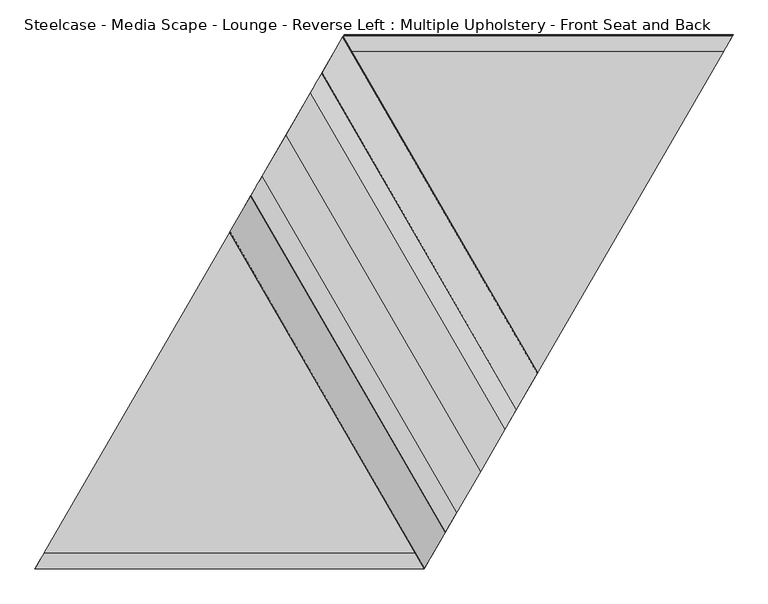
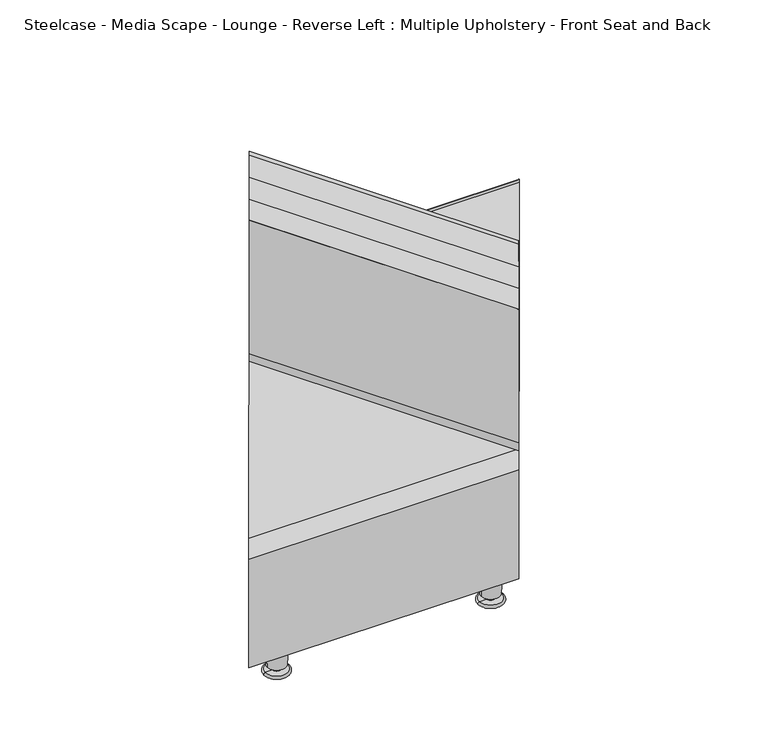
"""IFC4 building model written with IfcOpenShell, lengths in millimetres: furniture geometry, Steelcase - Media Scape - Lounge - Reverse Left : Multiple Upholstery - Front Seat and Back."""

from ifc_helpers import new_model, si_unit, point, frame, origin, place, context, project, spatial, polyline, circle_curve, ellipse_curve, trimmed, source, transform, mapped, element, save
from ifc_brep_helpers import plane_surface, cylinder_surface, revolved_surface, advanced_brep


def steelcase_media_scape_lounge_reverse_left_multiple_c18cf6bd(model_context):
    return source(origin(), model_context, "Body", "AdvancedBrep", [
        advanced_brep(
        [(1089.5021408, 833.8007481, 375.0457281), (1075.0168101, 808.759271, 404.6983065), (621.7328337, 25.1457946, 404.6983065), (607.2475031, 0.1043175, 375.0457281), (467.8296499, 808.759271, 404.6983065), (482.3149805, 833.8007481, 375.0457281), (0.0603428, 0.1043175, 375.0457281), (14.5456735, 25.1457946, 404.6983065)],
        [
            (0, 1, ellipse_curve(frame((1075.0168101, 808.759271, 379.2983065), z_axis=(0.8656115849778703, -0.5007160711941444, 0.0), x_axis=(0.500716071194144, 0.8656115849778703, 0.0)), 29.343415, 25.4)),
            (1, 2),
            (2, 3, ellipse_curve(frame((621.7328337, 25.1457946, 379.2983065), z_axis=(0.8656115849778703, -0.5007160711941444, 0.0), x_axis=(0.500716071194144, 0.8656115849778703, 0.0)), 29.343415, 25.4)),
            (3, 0),
            (4, 5, ellipse_curve(frame((467.8296499, 808.759271, 379.2983065), z_axis=(-0.8656115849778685, 0.5007160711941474, 0.0), x_axis=(0.5007160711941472, 0.8656115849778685, 0.0)), 29.343415, 25.4)),
            (5, 6),
            (6, 7, ellipse_curve(frame((14.5456735, 25.1457946, 379.2983065), z_axis=(-0.8656115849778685, 0.5007160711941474, 0.0), x_axis=(0.5007160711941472, 0.8656115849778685, 0.0)), 29.343415, 25.4)),
            (7, 4),
            (0, 5),
            (4, 1),
            (7, 2),
            (6, 3),
        ],
        [
            plane_surface(frame((1244.6, 1101.9257624, 750.6521515), z_axis=(0.8656115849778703, -0.5007160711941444, 0.0), x_axis=(0.0, 0.0, -1.0))),
            plane_surface(frame((-113.1046529, -195.5293698, 750.6521515), z_axis=(-0.8656115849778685, 0.5007160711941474, 0.0), x_axis=(0.0, 0.0, -1.0))),
            cylinder_surface(frame((-26.5525875, 808.759271, 379.2983065), z_axis=(1.0, 0.0, 0.0), x_axis=(0.0, 1.0, 0.0)), 25.4),
            plane_surface(frame((1094.6230669, 808.759271, 404.6983065), z_axis=(0.0, 0.0, 1.0), x_axis=(-1.0, 0.0, 0.0))),
            cylinder_surface(frame((-26.5525875, 25.1457946, 379.2983065), z_axis=(1.0, 0.0, 0.0), x_axis=(0.0, -1.0, 0.0)), 25.4),
            plane_surface(frame((1094.6230669, 0.1043175, 375.0457281), z_axis=(0.0, 0.0, -1.0), x_axis=(-1.0, 0.0, 0.0))),
        ],
        [
            (0, [[1, 2, 3, 4]]),
            (1, [[5, 6, 7, 8]]),
            (2, [[9, -5, 10, -1]]),
            (3, [[-10, -8, 11, -2]]),
            (4, [[-11, -7, 12, -3]]),
            (5, [[-9, -4, -12, -6]]),
        ],
    ),
        advanced_brep(
        [(784.0823692, 305.807125, 438.7707826), (480.7785795, 831.1446989, 438.7707826), (448.0784619, 774.614457, 710.4083904), (751.3822516, 249.2768832, 710.4083904), (447.4787106, 773.5776385, 710.4083904), (750.7825003, 248.2400646, 710.4083904), (480.2037704, 830.1509992, 438.5635894), (783.5075601, 304.8134253, 438.5635894), (465.4772182, 804.6925109, 407.2255), (768.7810079, 279.3549371, 407.2255), (392.5844661, 678.6793583, 407.2255), (695.8882558, 153.3417845, 407.2255), (319.5651722, 552.447447, 407.2255), (622.8689619, 27.1098731, 407.2255), (304.83862, 526.9889588, 438.5635894), (608.1424097, 1.6513849, 438.5635894), (337.5636798, 583.5623194, 710.4083904), (640.8674695, 58.2247456, 710.4083904), (336.9639285, 582.5255009, 710.4083904), (640.2677181, 57.187927, 710.4083904), (304.2638109, 525.9952591, 438.7707826), (607.5676006, 0.6576852, 438.7707826), (319.5651722, 552.447447, 406.2095), (622.8689619, 27.1098731, 406.2095), (392.5844661, 678.6793583, 406.2095), (695.8882558, 153.3417845, 406.2095), (465.4772182, 804.6925109, 406.2095), (768.7810079, 279.3549371, 406.2095)],
        [
            (0, 1),
            (1, 2),
            (2, 3),
            (3, 0),
            (2, 4),
            (4, 5),
            (5, 3),
            (4, 6),
            (6, 7),
            (7, 5),
            (6, 8, ellipse_curve(frame((465.4772182, 804.6925109, 433.2553188), z_axis=(-0.8656115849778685, 0.5007160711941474, 0.0), x_axis=(0.5007160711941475, 0.8656115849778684, 0.0)), 30.042311, 26.0298188)),
            (8, 9),
            (9, 7, ellipse_curve(frame((768.7810079, 279.3549371, 433.2553188), z_axis=(0.8656115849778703, -0.5007160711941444, 0.0), x_axis=(0.5007160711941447, 0.86561158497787, 0.0)), 30.042311, 26.0298188)),
            (8, 10),
            (10, 11),
            (11, 9),
            (10, 12),
            (12, 13),
            (13, 11),
            (12, 14, ellipse_curve(frame((319.5651722, 552.447447, 433.2553188), z_axis=(-0.8656115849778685, 0.5007160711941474, 0.0), x_axis=(0.5007160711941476, 0.8656115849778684, 0.0)), 30.042311, 26.0298188)),
            (14, 15),
            (15, 13, ellipse_curve(frame((622.8689619, 27.1098731, 433.2553188), z_axis=(0.8656115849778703, -0.5007160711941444, 0.0), x_axis=(0.5007160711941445, 0.86561158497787, 0.0)), 30.042311, 26.0298188)),
            (14, 16),
            (16, 17),
            (17, 15),
            (16, 18),
            (18, 19),
            (19, 17),
            (18, 20),
            (20, 21),
            (21, 19),
            (20, 22, ellipse_curve(frame((319.5651722, 552.447447, 433.2553188), z_axis=(0.8656115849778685, -0.5007160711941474, 0.0), x_axis=(-0.5007160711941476, -0.8656115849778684, 0.0)), 31.2149272, 27.0458188)),
            (22, 23),
            (23, 21, ellipse_curve(frame((622.8689619, 27.1098731, 433.2553188), z_axis=(-0.8656115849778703, 0.5007160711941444, 0.0), x_axis=(-0.5007160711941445, -0.86561158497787, 0.0)), 31.2149272, 27.0458188)),
            (22, 24),
            (24, 25),
            (25, 23),
            (24, 26),
            (26, 27),
            (27, 25),
            (0, 27, ellipse_curve(frame((768.7810079, 279.3549371, 433.2553188), z_axis=(-0.8656115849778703, 0.5007160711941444, 0.0), x_axis=(-0.5007160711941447, -0.86561158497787, 0.0)), 31.2149272, 27.0458188)),
            (26, 1, ellipse_curve(frame((465.4772182, 804.6925109, 433.2553188), z_axis=(0.8656115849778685, -0.5007160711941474, 0.0), x_axis=(-0.5007160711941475, -0.8656115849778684, 0.0)), 31.2149272, 27.0458188)),
        ],
        [
            plane_surface(frame((872.2769364, 153.0496536, 438.7707826), z_axis=(0.8478262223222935, 0.489492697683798, 0.20393036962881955), x_axis=(-0.4999999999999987, 0.8660254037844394, 0.0))),
            plane_surface(frame((823.2735355, 124.7575269, 710.4083904), z_axis=(0.0, 0.0, 1.0), x_axis=(-0.4999999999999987, 0.8660254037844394, 0.0))),
            plane_surface(frame((822.3747664, 124.2386223, 710.4083904), z_axis=(-0.8478262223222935, -0.4894926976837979, -0.20393036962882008), x_axis=(-0.4999999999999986, 0.8660254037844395, 0.0))),
            revolved_surface(polyline([(480.51988613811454, 830.6974833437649, 433.2553188), (798.8233085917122, 279.37978343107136, 433.2553188)]), (457.0526696, 819.2842571, 433.2553188), (-0.49999999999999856, 0.8660254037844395, 0.0)),
            plane_surface(frame((849.346782, 139.8109228, 407.2255), z_axis=(0.0, 0.0, 1.0), x_axis=(-0.4999999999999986, 0.8660254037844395, 0.0))),
            plane_surface(frame((740.1119223, 76.7441471, 407.2255), z_axis=(0.0, 0.0, 1.0), x_axis=(-0.49999999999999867, 0.8660254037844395, 0.0))),
            revolved_surface(polyline([(289.5228714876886, 552.4226006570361, 433.2553188), (607.8262939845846, 1.1049006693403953, 433.2553188)]), (238.3933185, 693.0412218, 433.2553188), (-0.49999999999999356, 0.8660254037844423, 0.0)),
            plane_surface(frame((608.618668, 0.8264814, 438.5635894), z_axis=(0.8478262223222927, 0.4894926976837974, -0.20393036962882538), x_axis=(-0.49999999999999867, 0.8660254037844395, 0.0))),
            plane_surface(frame((657.6594466, 29.1401881, 710.4083904), z_axis=(0.0, 0.0, 1.0), x_axis=(-0.4999999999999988, 0.8660254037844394, 0.0))),
            plane_surface(frame((656.7606775, 28.6212835, 710.4083904), z_axis=(-0.8478262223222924, -0.4894926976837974, 0.2039303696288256), x_axis=(-0.4999999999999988, 0.8660254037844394, 0.0))),
            cylinder_surface(frame((238.3933185, 693.0412218, 433.2553188), z_axis=(0.49999999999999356, -0.8660254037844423, 0.0), x_axis=(-0.8660254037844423, -0.49999999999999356, 0.0)), 27.0458188),
            plane_surface(frame((630.6874309, 13.5678876, 406.2095), z_axis=(0.0, 0.0, -1.0), x_axis=(-0.49999999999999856, 0.8660254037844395, 0.0))),
            plane_surface(frame((740.1119223, 76.7441471, 406.2095), z_axis=(0.0, 0.0, -1.0), x_axis=(-0.49999999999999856, 0.8660254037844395, 0.0))),
            cylinder_surface(frame((457.0526696, 819.2842571, 433.2553188), z_axis=(0.49999999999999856, -0.8660254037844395, 0.0), x_axis=(0.8660254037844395, 0.49999999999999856, 0.0)), 27.0458188),
            plane_surface(frame((1244.6, 1101.9257624, 750.6521515), z_axis=(0.8656115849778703, -0.5007160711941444, 0.0), x_axis=(0.0, 0.0, -1.0))),
            plane_surface(frame((-113.1046529, -195.5293698, 750.6521515), z_axis=(-0.8656115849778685, 0.5007160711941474, 0.0), x_axis=(0.0, 0.0, -1.0))),
        ],
        [
            (0, [[1, 2, 3, 4]]),
            (1, [[-3, 5, 6, 7]]),
            (2, [[-6, 8, 9, 10]]),
            (3, [[-9, 11, 12, 13]]),
            (4, [[-12, 14, 15, 16]]),
            (5, [[-15, 17, 18, 19]]),
            (6, [[-18, 20, 21, 22]]),
            (7, [[-21, 23, 24, 25]]),
            (8, [[-24, 26, 27, 28]]),
            (9, [[-27, 29, 30, 31]]),
            (10, [[-30, 32, 33, 34]]),
            (11, [[-33, 35, 36, 37]]),
            (12, [[-36, 38, 39, 40]]),
            (13, [[-1, 41, -39, 42]]),
            (14, [[-4, -7, -10, -13, -16, -19, -22, -25, -28, -31, -34, -37, -40, -41]]),
            (15, [[-2, -42, -38, -35, -32, -29, -26, -23, -20, -17, -14, -11, -8, -5]]),
        ],
    ),
        advanced_brep(
        [(733.2985607, 218.0147503, 735.33), (429.994771, 743.3523242, 735.33), (392.1305336, 677.8946237, 735.33), (695.4343233, 152.5570499, 735.33), (355.0476193, 613.7876338, 735.33), (658.351409, 88.4500599, 735.33), (337.0848346, 582.734517, 710.0547892), (640.3886243, 57.3969432, 710.0547892), (304.4075131, 526.243684, 438.6065476), (607.7113028, 0.9061101, 438.6065476), (319.5651722, 552.447447, 406.3510633), (622.8689619, 27.1098731, 406.3510633), (392.5844661, 678.6793583, 406.3510633), (695.8882558, 153.3417845, 406.3510633), (465.4772182, 804.6925109, 406.3510633), (768.7810079, 279.3549371, 406.3510633), (480.6348772, 830.896274, 438.6065476), (783.9386669, 305.5587001, 438.6065476), (447.9575558, 774.4054409, 710.0547892), (751.2613455, 249.067867, 710.0547892)],
        [
            (0, 1),
            (1, 2),
            (2, 3),
            (3, 0),
            (2, 4),
            (4, 5),
            (5, 3),
            (4, 6, ellipse_curve(frame((355.0476193, 613.7876338, 703.58), z_axis=(0.8656115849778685, -0.5007160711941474, 0.0), x_axis=(-0.5007160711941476, -0.8656115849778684, 0.0)), 36.6442572, 31.75)),
            (6, 7),
            (7, 5, ellipse_curve(frame((658.351409, 88.4500599, 703.58), z_axis=(-0.8656115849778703, 0.5007160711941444, 0.0), x_axis=(-0.5007160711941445, -0.86561158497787, 0.0)), 36.6442572, 31.75)),
            (6, 8),
            (8, 9),
            (9, 7),
            (8, 10, ellipse_curve(frame((319.5651722, 552.447447, 433.1428821), z_axis=(0.8656115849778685, -0.5007160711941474, 0.0), x_axis=(-0.5007160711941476, -0.8656115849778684, 0.0)), 30.9217732, 26.7918188)),
            (10, 11),
            (11, 9, ellipse_curve(frame((622.8689619, 27.1098731, 433.1428821), z_axis=(-0.8656115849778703, 0.5007160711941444, 0.0), x_axis=(-0.5007160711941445, -0.86561158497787, 0.0)), 30.9217732, 26.7918188)),
            (10, 12),
            (12, 13),
            (13, 11),
            (12, 14),
            (14, 15),
            (15, 13),
            (14, 16, ellipse_curve(frame((465.4772182, 804.6925109, 433.1428821), z_axis=(0.8656115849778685, -0.5007160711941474, 0.0), x_axis=(-0.5007160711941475, -0.8656115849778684, 0.0)), 30.9217732, 26.7918188)),
            (16, 17),
            (17, 15, ellipse_curve(frame((768.7810079, 279.3549371, 433.1428821), z_axis=(-0.8656115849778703, 0.5007160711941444, 0.0), x_axis=(-0.5007160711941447, -0.86561158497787, 0.0)), 30.9217732, 26.7918188)),
            (16, 18),
            (18, 19),
            (19, 17),
            (0, 19, ellipse_curve(frame((733.2985607, 218.0147503, 703.58), z_axis=(-0.8656115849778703, 0.5007160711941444, 0.0), x_axis=(-0.5007160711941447, -0.86561158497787, 0.0)), 36.6442572, 31.75)),
            (18, 1, ellipse_curve(frame((429.994771, 743.3523242, 703.58), z_axis=(0.8656115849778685, -0.5007160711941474, 0.0), x_axis=(-0.5007160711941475, -0.8656115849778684, 0.0)), 36.6442572, 31.75)),
        ],
        [
            plane_surface(frame((796.5544513, 108.452334, 735.33), z_axis=(0.0, 0.0, 1.0), x_axis=(-0.49999999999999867, 0.8660254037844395, 0.0))),
            plane_surface(frame((739.8122575, 75.6922131, 735.33), z_axis=(0.0, 0.0, 1.0), x_axis=(-0.49999999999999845, 0.8660254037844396, 0.0))),
            cylinder_surface(frame((291.2090631, 724.3592567, 703.58), z_axis=(0.49999999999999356, -0.8660254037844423, 0.0), x_axis=(-0.8660254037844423, -0.49999999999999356, 0.0)), 31.75),
            plane_surface(frame((657.3224483, 28.0666996, 710.0547892), z_axis=(-0.8478262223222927, -0.4894926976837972, 0.2039303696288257), x_axis=(-0.49999999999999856, 0.8660254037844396, 0.0))),
            cylinder_surface(frame((238.0361477, 693.6598597, 433.1428821), z_axis=(0.49999999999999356, -0.8660254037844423, 0.0), x_axis=(-0.8660254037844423, -0.49999999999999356, 0.0)), 26.7918188),
            plane_surface(frame((631.0680155, 12.9086957, 406.3510633), z_axis=(0.0, 0.0, -1.0000000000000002), x_axis=(-0.4999999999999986, 0.8660254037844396, 0.0))),
            plane_surface(frame((740.4925069, 76.0849553, 406.3510633), z_axis=(0.0, 0.0, -1.0), x_axis=(-0.49999999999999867, 0.8660254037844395, 0.0))),
            cylinder_surface(frame((456.6954989, 819.902895, 433.1428821), z_axis=(0.49999999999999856, -0.8660254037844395, 0.0), x_axis=(0.8660254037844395, 0.49999999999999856, 0.0)), 26.7918188),
            plane_surface(frame((872.4421732, 152.2661306, 438.6065476), z_axis=(0.8478262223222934, 0.489492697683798, 0.20393036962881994), x_axis=(-0.4999999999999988, 0.8660254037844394, 0.0))),
            cylinder_surface(frame((403.5225835, 789.203498, 703.58), z_axis=(0.49999999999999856, -0.8660254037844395, 0.0), x_axis=(0.8660254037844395, 0.49999999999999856, 0.0)), 31.75),
            plane_surface(frame((1244.6, 1101.9257624, 750.6521515), z_axis=(0.8656115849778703, -0.5007160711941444, 0.0), x_axis=(0.0, 0.0, -1.0))),
            plane_surface(frame((-113.1046529, -195.5293698, 750.6521515), z_axis=(-0.8656115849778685, 0.5007160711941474, 0.0), x_axis=(0.0, 0.0, -1.0))),
        ],
        [
            (0, [[1, 2, 3, 4]]),
            (1, [[-3, 5, 6, 7]]),
            (2, [[-6, 8, 9, 10]]),
            (3, [[-9, 11, 12, 13]]),
            (4, [[-12, 14, 15, 16]]),
            (5, [[-15, 17, 18, 19]]),
            (6, [[-18, 20, 21, 22]]),
            (7, [[-21, 23, 24, 25]]),
            (8, [[-24, 26, 27, 28]]),
            (9, [[-1, 29, -27, 30]]),
            (10, [[-4, -7, -10, -13, -16, -19, -22, -25, -28, -29]]),
            (11, [[-2, -30, -26, -23, -20, -17, -14, -11, -8, -5]]),
        ],
    ),
        advanced_brep(
        [(1059.8466558, 782.5339068, 74.676), (452.6594956, 782.5339068, 74.676), (482.1409984, 833.4999769, 374.7917281), (1089.3281586, 833.4999769, 374.7917281), (467.6556677, 808.4584998, 404.4443065), (1074.842828, 808.4584998, 404.4443065), (14.7196556, 25.4465658, 404.4443065), (621.9068159, 25.4465658, 404.4443065), (0.234325, 0.4050887, 374.7917281), (607.4214852, 0.4050887, 374.7917281), (29.7158278, 51.3711588, 74.676), (636.9029881, 51.3711588, 74.676), (243.0239183, 420.1269566, 74.676), (850.2110786, 420.1269566, 74.676)],
        [
            (0, 1),
            (1, 2),
            (2, 3),
            (3, 0),
            (2, 4, ellipse_curve(frame((467.6556677, 808.4584998, 379.0443065), z_axis=(0.8656115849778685, -0.5007160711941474, 0.0), x_axis=(0.5007160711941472, 0.8656115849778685, 0.0)), 29.343415, 25.4)),
            (4, 5),
            (5, 3, ellipse_curve(frame((1074.842828, 808.4584998, 379.0443065), z_axis=(-0.8656115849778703, 0.5007160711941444, 0.0), x_axis=(0.500716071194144, 0.8656115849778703, 0.0)), 29.343415, 25.4)),
            (4, 6),
            (6, 7),
            (7, 5),
            (6, 8, ellipse_curve(frame((14.7196556, 25.4465658, 379.0443065), z_axis=(0.8656115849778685, -0.5007160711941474, 0.0), x_axis=(0.5007160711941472, 0.8656115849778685, 0.0)), 29.343415, 25.4)),
            (8, 9),
            (9, 7, ellipse_curve(frame((621.9068159, 25.4465658, 379.0443065), z_axis=(-0.8656115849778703, 0.5007160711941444, 0.0), x_axis=(0.500716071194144, 0.8656115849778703, 0.0)), 29.343415, 25.4)),
            (8, 10),
            (10, 11),
            (11, 9),
            (10, 12),
            (12, 13),
            (13, 11),
            (0, 13),
            (12, 1),
        ],
        [
            plane_surface(frame((1094.6230669, 782.5339068, 74.676), z_axis=(0.0, 0.9858849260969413, -0.16742434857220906), x_axis=(-1.0, 0.0, 0.0))),
            cylinder_surface(frame((0.0, 808.4584998, 379.0443065), z_axis=(1.0, 0.0, 0.0), x_axis=(0.0, 1.0, 0.0)), 25.4),
            plane_surface(frame((1094.6230669, 808.4584998, 404.4443065), z_axis=(0.0, 0.0, 1.0), x_axis=(-1.0, 0.0, 0.0))),
            cylinder_surface(frame((0.0, 25.4465658, 379.0443065), z_axis=(1.0, 0.0, 0.0), x_axis=(0.0, -1.0, 0.0)), 25.4),
            plane_surface(frame((1094.6230669, 0.4050887, 374.7917281), z_axis=(0.0, -0.9858849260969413, -0.1674243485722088), x_axis=(-1.0, 0.0, 0.0))),
            plane_surface(frame((1094.6230669, 51.3711588, 74.676), z_axis=(0.0, 0.0, -1.0), x_axis=(-1.0, 0.0, 0.0))),
            plane_surface(frame((1094.6230669, 420.1269566, 74.676), z_axis=(0.0, 0.0, -1.0), x_axis=(-1.0, 0.0, 0.0))),
            plane_surface(frame((1244.6, 1101.9257624, 750.6521515), z_axis=(0.8656115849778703, -0.5007160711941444, 0.0), x_axis=(0.0, 0.0, -1.0))),
            plane_surface(frame((-113.1046529, -195.5293698, 750.6521515), z_axis=(-0.8656115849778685, 0.5007160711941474, 0.0), x_axis=(0.0, 0.0, -1.0))),
        ],
        [
            (0, [[1, 2, 3, 4]]),
            (1, [[-3, 5, 6, 7]]),
            (2, [[-6, 8, 9, 10]]),
            (3, [[-9, 11, 12, 13]]),
            (4, [[-12, 14, 15, 16]]),
            (5, [[-15, 17, 18, 19]]),
            (6, [[-1, 20, -18, 21]]),
            (7, [[-4, -7, -10, -13, -16, -19, -20]]),
            (8, [[-2, -21, -17, -14, -11, -8, -5]]),
        ],
    ),
        advanced_brep(
        [(964.0013944, 727.1583042, 74.1561731), (987.7883146, 727.1583042, 74.1561731), (940.2144743, 727.1583042, 74.1561731), (937.9477522, 727.1583042, 0.0), (990.0550367, 727.1583042, 0.0), (964.0013944, 727.1583042, 0.0), (937.9477522, 727.1583042, 6.3788302), (990.0550367, 727.1583042, 6.3788302), (954.4763944, 727.1583042, 6.3788302), (973.5263944, 727.1583042, 6.3788302), (954.4763944, 727.1583042, 17.057519), (973.5263944, 727.1583042, 17.057519), (943.0462782, 727.1583042, 17.057519), (984.9565107, 727.1583042, 17.057519)],
        [
            (0, 1),
            (1, 2, circle_curve(frame((964.0013944, 727.1583042, 74.1561731), z_axis=(0.0, 0.0, 1.0), x_axis=(1.0, 0.0, 0.0)), 23.7869202)),
            (2, 0),
            (2, 1, circle_curve(frame((964.0013944, 727.1583042, 74.1561731), z_axis=(0.0, 0.0, 1.0), x_axis=(1.0, 0.0, 0.0)), 23.7869202)),
            (3, 4, circle_curve(frame((964.0013944, 727.1583042, 0.0), z_axis=(0.0, 0.0, -1.0), x_axis=(1.0, 0.0, 0.0)), 26.0536423)),
            (4, 5),
            (5, 3),
            (4, 3, circle_curve(frame((964.0013944, 727.1583042, 0.0), z_axis=(0.0, 0.0, -1.0), x_axis=(1.0, 0.0, 0.0)), 26.0536423)),
            (3, 6, circle_curve(frame((937.9477522, 727.1583042, 3.1894151), z_axis=(0.0, 1.0, 0.0), x_axis=(-1.0, 0.0, 0.0)), 3.1894151)),
            (6, 7, circle_curve(frame((964.0013944, 727.1583042, 6.3788302), z_axis=(0.0, 0.0, -1.0), x_axis=(1.0, 0.0, 0.0)), 26.0536423)),
            (7, 4, circle_curve(frame((990.0550367, 727.1583042, 3.1894151), z_axis=(0.0, 1.0, 0.0), x_axis=(1.0, 0.0, 0.0)), 3.1894151)),
            (7, 6, circle_curve(frame((964.0013944, 727.1583042, 6.3788302), z_axis=(0.0, 0.0, -1.0), x_axis=(1.0, 0.0, 0.0)), 26.0536423)),
            (6, 8),
            (8, 9, circle_curve(frame((964.0013944, 727.1583042, 6.3788302), z_axis=(0.0, 0.0, -1.0), x_axis=(1.0, 0.0, 0.0)), 9.525)),
            (9, 7),
            (9, 8, circle_curve(frame((964.0013944, 727.1583042, 6.3788302), z_axis=(0.0, 0.0, -1.0), x_axis=(1.0, 0.0, 0.0)), 9.525)),
            (8, 10),
            (10, 11, circle_curve(frame((964.0013944, 727.1583042, 17.057519), z_axis=(0.0, 0.0, -1.0), x_axis=(1.0, 0.0, 0.0)), 9.525)),
            (11, 9),
            (11, 10, circle_curve(frame((964.0013944, 727.1583042, 17.057519), z_axis=(0.0, 0.0, -1.0), x_axis=(1.0, 0.0, 0.0)), 9.525)),
            (10, 12),
            (12, 13, circle_curve(frame((964.0013944, 727.1583042, 17.057519), z_axis=(0.0, 0.0, -1.0), x_axis=(1.0, 0.0, 0.0)), 20.9551163)),
            (13, 11),
            (13, 12, circle_curve(frame((964.0013944, 727.1583042, 17.057519), z_axis=(0.0, 0.0, -1.0), x_axis=(1.0, 0.0, 0.0)), 20.9551163)),
            (1, 13),
            (12, 2),
        ],
        [
            plane_surface(frame((964.0013944, 727.1583042, 74.1561731), z_axis=(0.0, 0.0, 1.0), x_axis=(1.0, 0.0, 0.0))),
            plane_surface(frame((964.0013944, 727.1583042, 0.0), z_axis=(0.0, 0.0, -1.0), x_axis=(1.0, 0.0, 0.0))),
            revolved_surface(trimmed(ellipse_curve(frame((990.0550367, 727.1583042, 3.1894151), z_axis=(0.0, -1.0, 0.0), x_axis=(1.0, 0.0, 0.0)), 3.1894151, 3.1894151), [point((990.0550367, 727.1583042, 0.0))], [point((990.0550367, 727.1583042, 6.3788302))], True, "CARTESIAN"), (964.0013944, 727.1583042, 61.4561731), (0.0, 0.0, 1.0)),
            plane_surface(frame((964.0013944, 727.1583042, 6.3788302), z_axis=(0.0, 0.0, 1.0), x_axis=(1.0, 0.0, 0.0))),
            cylinder_surface(frame((964.0013944, 727.1583042, 61.4561731), z_axis=(0.0, 0.0, 1.0), x_axis=(1.0, 0.0, 0.0)), 9.525),
            plane_surface(frame((964.0013944, 727.1583042, 17.057519), z_axis=(0.0, 0.0, -1.0), x_axis=(1.0, 0.0, 0.0))),
            revolved_surface(polyline([(984.9565107, 727.1583042, 17.057519), (987.7883146, 727.1583042, 74.1561731)]), (964.0013944, 727.1583042, 61.4561731), (0.0, 0.0, 1.0)),
        ],
        [
            (0, [[1, 2, 3]]),
            (0, [[-1, -3, 4]]),
            (1, [[5, 6, 7]]),
            (1, [[-6, 8, -7]]),
            (2, [[-5, 9, 10, 11]]),
            (2, [[-8, -11, 12, -9]]),
            (3, [[-10, 13, 14, 15]]),
            (3, [[-12, -15, 16, -13]]),
            (4, [[-14, 17, 18, 19]]),
            (4, [[-16, -19, 20, -17]]),
            (5, [[-18, 21, 22, 23]]),
            (5, [[-20, -23, 24, -21]]),
            (6, [[-2, 25, -22, 26]]),
            (6, [[-4, -26, -24, -25]]),
        ],
    ),
        advanced_brep(
        [(482.2011518, 727.1583042, 74.1561731), (505.988072, 727.1583042, 74.1561731), (458.4142317, 727.1583042, 74.1561731), (456.1475095, 727.1583042, 0.0), (508.2547941, 727.1583042, 0.0), (482.2011518, 727.1583042, 0.0), (456.1475095, 727.1583042, 6.3788302), (508.2547941, 727.1583042, 6.3788302), (472.6761518, 727.1583042, 6.3788302), (491.7261518, 727.1583042, 6.3788302), (472.6761518, 727.1583042, 17.057519), (491.7261518, 727.1583042, 17.057519), (461.2460355, 727.1583042, 17.057519), (503.1562681, 727.1583042, 17.057519)],
        [
            (0, 1),
            (1, 2, circle_curve(frame((482.2011518, 727.1583042, 74.1561731), z_axis=(0.0, 0.0, 1.0), x_axis=(1.0, 0.0, 0.0)), 23.7869202)),
            (2, 0),
            (2, 1, circle_curve(frame((482.2011518, 727.1583042, 74.1561731), z_axis=(0.0, 0.0, 1.0), x_axis=(1.0, 0.0, 0.0)), 23.7869202)),
            (3, 4, circle_curve(frame((482.2011518, 727.1583042, 0.0), z_axis=(0.0, 0.0, -1.0), x_axis=(1.0, 0.0, 0.0)), 26.0536423)),
            (4, 5),
            (5, 3),
            (4, 3, circle_curve(frame((482.2011518, 727.1583042, 0.0), z_axis=(0.0, 0.0, -1.0), x_axis=(1.0, 0.0, 0.0)), 26.0536423)),
            (3, 6, circle_curve(frame((456.1475095, 727.1583042, 3.1894151), z_axis=(0.0, 1.0, 0.0), x_axis=(-1.0, 0.0, 0.0)), 3.1894151)),
            (6, 7, circle_curve(frame((482.2011518, 727.1583042, 6.3788302), z_axis=(0.0, 0.0, -1.0), x_axis=(1.0, 0.0, 0.0)), 26.0536423)),
            (7, 4, circle_curve(frame((508.2547941, 727.1583042, 3.1894151), z_axis=(0.0, 1.0, 0.0), x_axis=(1.0, 0.0, 0.0)), 3.1894151)),
            (7, 6, circle_curve(frame((482.2011518, 727.1583042, 6.3788302), z_axis=(0.0, 0.0, -1.0), x_axis=(1.0, 0.0, 0.0)), 26.0536423)),
            (6, 8),
            (8, 9, circle_curve(frame((482.2011518, 727.1583042, 6.3788302), z_axis=(0.0, 0.0, -1.0), x_axis=(1.0, 0.0, 0.0)), 9.525)),
            (9, 7),
            (9, 8, circle_curve(frame((482.2011518, 727.1583042, 6.3788302), z_axis=(0.0, 0.0, -1.0), x_axis=(1.0, 0.0, 0.0)), 9.525)),
            (8, 10),
            (10, 11, circle_curve(frame((482.2011518, 727.1583042, 17.057519), z_axis=(0.0, 0.0, -1.0), x_axis=(1.0, 0.0, 0.0)), 9.525)),
            (11, 9),
            (11, 10, circle_curve(frame((482.2011518, 727.1583042, 17.057519), z_axis=(0.0, 0.0, -1.0), x_axis=(1.0, 0.0, 0.0)), 9.525)),
            (10, 12),
            (12, 13, circle_curve(frame((482.2011518, 727.1583042, 17.057519), z_axis=(0.0, 0.0, -1.0), x_axis=(1.0, 0.0, 0.0)), 20.9551163)),
            (13, 11),
            (13, 12, circle_curve(frame((482.2011518, 727.1583042, 17.057519), z_axis=(0.0, 0.0, -1.0), x_axis=(1.0, 0.0, 0.0)), 20.9551163)),
            (1, 13),
            (12, 2),
        ],
        [
            plane_surface(frame((482.2011518, 727.1583042, 74.1561731), z_axis=(0.0, 0.0, 1.0), x_axis=(1.0, 0.0, 0.0))),
            plane_surface(frame((482.2011518, 727.1583042, 0.0), z_axis=(0.0, 0.0, -1.0), x_axis=(1.0, 0.0, 0.0))),
            revolved_surface(trimmed(ellipse_curve(frame((508.2547941, 727.1583042, 3.1894151), z_axis=(0.0, -1.0, 0.0), x_axis=(1.0, 0.0, 0.0)), 3.1894151, 3.1894151), [point((508.2547941, 727.1583042, 0.0))], [point((508.2547941, 727.1583042, 6.3788302))], True, "CARTESIAN"), (482.2011518, 727.1583042, 61.4561731), (0.0, 0.0, 1.0)),
            plane_surface(frame((482.2011518, 727.1583042, 6.3788302), z_axis=(0.0, 0.0, 1.0), x_axis=(1.0, 0.0, 0.0))),
            cylinder_surface(frame((482.2011518, 727.1583042, 61.4561731), z_axis=(0.0, 0.0, 1.0), x_axis=(1.0, 0.0, 0.0)), 9.525),
            plane_surface(frame((482.2011518, 727.1583042, 17.057519), z_axis=(0.0, 0.0, -1.0), x_axis=(1.0, 0.0, 0.0))),
            revolved_surface(polyline([(503.1562681, 727.1583042, 17.057519), (505.988072, 727.1583042, 74.1561731)]), (482.2011518, 727.1583042, 61.4561731), (0.0, 0.0, 1.0)),
        ],
        [
            (0, [[1, 2, 3]]),
            (0, [[-1, -3, 4]]),
            (1, [[5, 6, 7]]),
            (1, [[-6, 8, -7]]),
            (2, [[-5, 9, 10, 11]]),
            (2, [[-8, -11, 12, -9]]),
            (3, [[-10, 13, 14, 15]]),
            (3, [[-12, -15, 16, -13]]),
            (4, [[-14, 17, 18, 19]]),
            (4, [[-16, -19, 20, -17]]),
            (5, [[-18, 21, 22, 23]]),
            (5, [[-20, -23, 24, -21]]),
            (6, [[-2, 25, -22, 26]]),
            (6, [[-4, -26, -24, -25]]),
        ],
    ),
        advanced_brep(
        [(605.7651212, 106.9669449, 74.1561731), (629.5520414, 106.9669449, 74.1561731), (581.9782011, 106.9669449, 74.1561731), (579.711479, 106.9669449, 0.0), (631.8187635, 106.9669449, 0.0), (605.7651212, 106.9669449, 0.0), (579.711479, 106.9669449, 6.3788302), (631.8187635, 106.9669449, 6.3788302), (596.2401212, 106.9669449, 6.3788302), (615.2901212, 106.9669449, 6.3788302), (596.2401212, 106.9669449, 17.057519), (615.2901212, 106.9669449, 17.057519), (584.810005, 106.9669449, 17.057519), (626.7202375, 106.9669449, 17.057519)],
        [
            (0, 1),
            (1, 2, circle_curve(frame((605.7651212, 106.9669449, 74.1561731), z_axis=(0.0, 0.0, 1.0), x_axis=(1.0, 0.0, 0.0)), 23.7869202)),
            (2, 0),
            (2, 1, circle_curve(frame((605.7651212, 106.9669449, 74.1561731), z_axis=(0.0, 0.0, 1.0), x_axis=(1.0, 0.0, 0.0)), 23.7869202)),
            (3, 4, circle_curve(frame((605.7651212, 106.9669449, 0.0), z_axis=(0.0, 0.0, -1.0), x_axis=(1.0, 0.0, 0.0)), 26.0536423)),
            (4, 5),
            (5, 3),
            (4, 3, circle_curve(frame((605.7651212, 106.9669449, 0.0), z_axis=(0.0, 0.0, -1.0), x_axis=(1.0, 0.0, 0.0)), 26.0536423)),
            (3, 6, circle_curve(frame((579.711479, 106.9669449, 3.1894151), z_axis=(0.0, 1.0, 0.0), x_axis=(-1.0, 0.0, 0.0)), 3.1894151)),
            (6, 7, circle_curve(frame((605.7651212, 106.9669449, 6.3788302), z_axis=(0.0, 0.0, -1.0), x_axis=(1.0, 0.0, 0.0)), 26.0536423)),
            (7, 4, circle_curve(frame((631.8187635, 106.9669449, 3.1894151), z_axis=(0.0, 1.0, 0.0), x_axis=(1.0, 0.0, 0.0)), 3.1894151)),
            (7, 6, circle_curve(frame((605.7651212, 106.9669449, 6.3788302), z_axis=(0.0, 0.0, -1.0), x_axis=(1.0, 0.0, 0.0)), 26.0536423)),
            (6, 8),
            (8, 9, circle_curve(frame((605.7651212, 106.9669449, 6.3788302), z_axis=(0.0, 0.0, -1.0), x_axis=(1.0, 0.0, 0.0)), 9.525)),
            (9, 7),
            (9, 8, circle_curve(frame((605.7651212, 106.9669449, 6.3788302), z_axis=(0.0, 0.0, -1.0), x_axis=(1.0, 0.0, 0.0)), 9.525)),
            (8, 10),
            (10, 11, circle_curve(frame((605.7651212, 106.9669449, 17.057519), z_axis=(0.0, 0.0, -1.0), x_axis=(1.0, 0.0, 0.0)), 9.525)),
            (11, 9),
            (11, 10, circle_curve(frame((605.7651212, 106.9669449, 17.057519), z_axis=(0.0, 0.0, -1.0), x_axis=(1.0, 0.0, 0.0)), 9.525)),
            (10, 12),
            (12, 13, circle_curve(frame((605.7651212, 106.9669449, 17.057519), z_axis=(0.0, 0.0, -1.0), x_axis=(1.0, 0.0, 0.0)), 20.9551163)),
            (13, 11),
            (13, 12, circle_curve(frame((605.7651212, 106.9669449, 17.057519), z_axis=(0.0, 0.0, -1.0), x_axis=(1.0, 0.0, 0.0)), 20.9551163)),
            (1, 13),
            (12, 2),
        ],
        [
            plane_surface(frame((605.7651212, 106.9669449, 74.1561731), z_axis=(0.0, 0.0, 1.0), x_axis=(1.0, 0.0, 0.0))),
            plane_surface(frame((605.7651212, 106.9669449, 0.0), z_axis=(0.0, 0.0, -1.0), x_axis=(1.0, 0.0, 0.0))),
            revolved_surface(trimmed(ellipse_curve(frame((631.8187635, 106.9669449, 3.1894151), z_axis=(0.0, -1.0, 0.0), x_axis=(1.0, 0.0, 0.0)), 3.1894151, 3.1894151), [point((631.8187635, 106.9669449, 0.0))], [point((631.8187635, 106.9669449, 6.3788302))], True, "CARTESIAN"), (605.7651212, 106.9669449, 61.4561731), (0.0, 0.0, 1.0)),
            plane_surface(frame((605.7651212, 106.9669449, 6.3788302), z_axis=(0.0, 0.0, 1.0), x_axis=(1.0, 0.0, 0.0))),
            cylinder_surface(frame((605.7651212, 106.9669449, 61.4561731), z_axis=(0.0, 0.0, 1.0), x_axis=(1.0, 0.0, 0.0)), 9.525),
            plane_surface(frame((605.7651212, 106.9669449, 17.057519), z_axis=(0.0, 0.0, -1.0), x_axis=(1.0, 0.0, 0.0))),
            revolved_surface(polyline([(626.7202375, 106.9669449, 17.057519), (629.5520414, 106.9669449, 74.1561731)]), (605.7651212, 106.9669449, 61.4561731), (0.0, 0.0, 1.0)),
        ],
        [
            (0, [[1, 2, 3]]),
            (0, [[-1, -3, 4]]),
            (1, [[5, 6, 7]]),
            (1, [[-6, 8, -7]]),
            (2, [[-5, 9, 10, 11]]),
            (2, [[-8, -11, 12, -9]]),
            (3, [[-10, 13, 14, 15]]),
            (3, [[-12, -15, 16, -13]]),
            (4, [[-14, 17, 18, 19]]),
            (4, [[-16, -19, 20, -17]]),
            (5, [[-18, 21, 22, 23]]),
            (5, [[-20, -23, 24, -21]]),
            (6, [[-2, 25, -22, 26]]),
            (6, [[-4, -26, -24, -25]]),
        ],
    ),
        advanced_brep(
        [(123.9648786, 106.9669449, 74.1561731), (147.7517988, 106.9669449, 74.1561731), (100.1779585, 106.9669449, 74.1561731), (97.9112364, 106.9669449, 0.0), (150.0185209, 106.9669449, 0.0), (123.9648786, 106.9669449, 0.0), (97.9112364, 106.9669449, 6.3788302), (150.0185209, 106.9669449, 6.3788302), (114.4398786, 106.9669449, 6.3788302), (133.4898786, 106.9669449, 6.3788302), (114.4398786, 106.9669449, 17.057519), (133.4898786, 106.9669449, 17.057519), (103.0097624, 106.9669449, 17.057519), (144.9199949, 106.9669449, 17.057519)],
        [
            (0, 1),
            (1, 2, circle_curve(frame((123.9648786, 106.9669449, 74.1561731), z_axis=(0.0, 0.0, 1.0), x_axis=(1.0, 0.0, 0.0)), 23.7869202)),
            (2, 0),
            (2, 1, circle_curve(frame((123.9648786, 106.9669449, 74.1561731), z_axis=(0.0, 0.0, 1.0), x_axis=(1.0, 0.0, 0.0)), 23.7869202)),
            (3, 4, circle_curve(frame((123.9648786, 106.9669449, 0.0), z_axis=(0.0, 0.0, -1.0), x_axis=(1.0, 0.0, 0.0)), 26.0536423)),
            (4, 5),
            (5, 3),
            (4, 3, circle_curve(frame((123.9648786, 106.9669449, 0.0), z_axis=(0.0, 0.0, -1.0), x_axis=(1.0, 0.0, 0.0)), 26.0536423)),
            (3, 6, circle_curve(frame((97.9112364, 106.9669449, 3.1894151), z_axis=(0.0, 1.0, 0.0), x_axis=(-1.0, 0.0, 0.0)), 3.1894151)),
            (6, 7, circle_curve(frame((123.9648786, 106.9669449, 6.3788302), z_axis=(0.0, 0.0, -1.0), x_axis=(1.0, 0.0, 0.0)), 26.0536423)),
            (7, 4, circle_curve(frame((150.0185209, 106.9669449, 3.1894151), z_axis=(0.0, 1.0, 0.0), x_axis=(1.0, 0.0, 0.0)), 3.1894151)),
            (7, 6, circle_curve(frame((123.9648786, 106.9669449, 6.3788302), z_axis=(0.0, 0.0, -1.0), x_axis=(1.0, 0.0, 0.0)), 26.0536423)),
            (6, 8),
            (8, 9, circle_curve(frame((123.9648786, 106.9669449, 6.3788302), z_axis=(0.0, 0.0, -1.0), x_axis=(1.0, 0.0, 0.0)), 9.525)),
            (9, 7),
            (9, 8, circle_curve(frame((123.9648786, 106.9669449, 6.3788302), z_axis=(0.0, 0.0, -1.0), x_axis=(1.0, 0.0, 0.0)), 9.525)),
            (8, 10),
            (10, 11, circle_curve(frame((123.9648786, 106.9669449, 17.057519), z_axis=(0.0, 0.0, -1.0), x_axis=(1.0, 0.0, 0.0)), 9.525)),
            (11, 9),
            (11, 10, circle_curve(frame((123.9648786, 106.9669449, 17.057519), z_axis=(0.0, 0.0, -1.0), x_axis=(1.0, 0.0, 0.0)), 9.525)),
            (10, 12),
            (12, 13, circle_curve(frame((123.9648786, 106.9669449, 17.057519), z_axis=(0.0, 0.0, -1.0), x_axis=(1.0, 0.0, 0.0)), 20.9551163)),
            (13, 11),
            (13, 12, circle_curve(frame((123.9648786, 106.9669449, 17.057519), z_axis=(0.0, 0.0, -1.0), x_axis=(1.0, 0.0, 0.0)), 20.9551163)),
            (1, 13),
            (12, 2),
        ],
        [
            plane_surface(frame((123.9648786, 106.9669449, 74.1561731), z_axis=(0.0, 0.0, 1.0), x_axis=(1.0, 0.0, 0.0))),
            plane_surface(frame((123.9648786, 106.9669449, 0.0), z_axis=(0.0, 0.0, -1.0), x_axis=(1.0, 0.0, 0.0))),
            revolved_surface(trimmed(ellipse_curve(frame((150.0185209, 106.9669449, 3.1894151), z_axis=(0.0, -1.0, 0.0), x_axis=(1.0, 0.0, 0.0)), 3.1894151, 3.1894151), [point((150.0185209, 106.9669449, 0.0))], [point((150.0185209, 106.9669449, 6.3788302))], True, "CARTESIAN"), (123.9648786, 106.9669449, 61.4561731), (0.0, 0.0, 1.0)),
            plane_surface(frame((123.9648786, 106.9669449, 6.3788302), z_axis=(0.0, 0.0, 1.0), x_axis=(1.0, 0.0, 0.0))),
            cylinder_surface(frame((123.9648786, 106.9669449, 61.4561731), z_axis=(0.0, 0.0, 1.0), x_axis=(1.0, 0.0, 0.0)), 9.525),
            plane_surface(frame((123.9648786, 106.9669449, 17.057519), z_axis=(0.0, 0.0, -1.0), x_axis=(1.0, 0.0, 0.0))),
            revolved_surface(polyline([(144.9199949, 106.9669449, 17.057519), (147.7517988, 106.9669449, 74.1561731)]), (123.9648786, 106.9669449, 61.4561731), (0.0, 0.0, 1.0)),
        ],
        [
            (0, [[1, 2, 3]]),
            (0, [[-1, -3, 4]]),
            (1, [[5, 6, 7]]),
            (1, [[-6, 8, -7]]),
            (2, [[-5, 9, 10, 11]]),
            (2, [[-8, -11, 12, -9]]),
            (3, [[-10, 13, 14, 15]]),
            (3, [[-12, -15, 16, -13]]),
            (4, [[-14, 17, 18, 19]]),
            (4, [[-16, -19, 20, -17]]),
            (5, [[-18, 21, 22, 23]]),
            (5, [[-20, -23, 24, -21]]),
            (6, [[-2, 25, -22, 26]]),
            (6, [[-4, -26, -24, -25]]),
        ],
    ),
    ])


if __name__ == "__main__":
    model = new_model("IFC4")
    model_context = context("Model", 3, world=origin())
    ifc_project = project(units=[si_unit("LENGTHUNIT", "METRE", prefix="MILLI")], contexts=[model_context])
    site = spatial("IfcSite", under=ifc_project)
    building = spatial("IfcBuilding", under=site)
    placement = place(None, origin())
    steelcase_media_scape_lounge_reverse_left_multiple_shape = steelcase_media_scape_lounge_reverse_left_multiple_c18cf6bd(model_context)
    element("IfcFurniture", 1, ObjectType="Steelcase - Media Scape - Lounge - Reverse Left : Multiple Upholstery - Front Seat and Back", at=placement, inside=building, context=model_context, shape_type="MappedRepresentation", body=[
        mapped(steelcase_media_scape_lounge_reverse_left_multiple_shape, transform((0.0, 0.0, 0.0), x_axis=(1.0, 0.0, 0.0), y_axis=(0.0, 1.0, 0.0), z_axis=(0.0, 0.0, 1.0))),
    ])
    save(model, "model.ifc")
